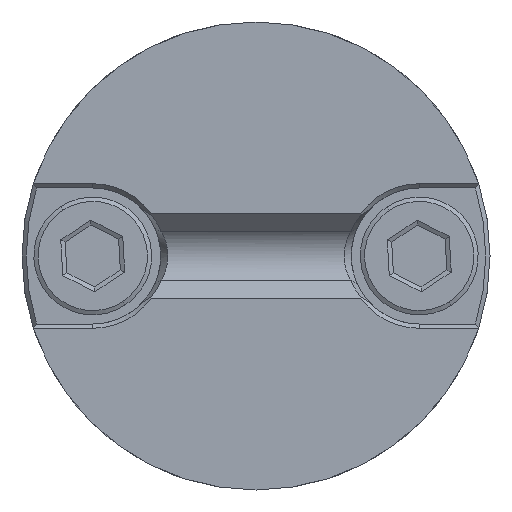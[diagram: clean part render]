
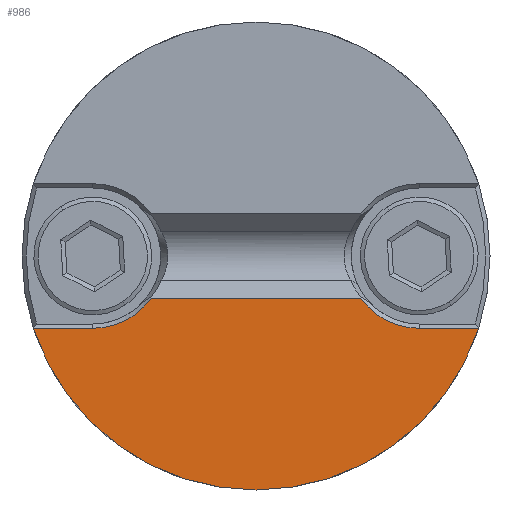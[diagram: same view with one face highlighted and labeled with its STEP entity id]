
A CAD part, front view. The second image highlights one B-rep face of the part: STEP entity #986.
In plain terms, the highlighted planar face has unit normal (0, -1, 0).
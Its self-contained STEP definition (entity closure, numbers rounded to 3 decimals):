
#5 = ORIENTED_EDGE ( 'NONE', *, *, #1172, .F. ) ;
#6 = ORIENTED_EDGE ( 'NONE', *, *, #1133, .F. ) ;
#9 = ORIENTED_EDGE ( 'NONE', *, *, #1061, .T. ) ;
#10 = ORIENTED_EDGE ( 'NONE', *, *, #1145, .T. ) ;
#14 = ORIENTED_EDGE ( 'NONE', *, *, #1176, .F. ) ;
#16 = ORIENTED_EDGE ( 'NONE', *, *, #1022, .T. ) ;
#18 = ORIENTED_EDGE ( 'NONE', *, *, #1146, .T. ) ;
#134 = LINE ( 'NONE', #2205, #1882 ) ;
#139 = EDGE_LOOP ( 'NONE', ( #18, #10, #14, #9, #16, #5, #6 ) ) ;
#330 = FACE_OUTER_BOUND ( 'NONE', #139, .T. ) ;
#526 = LINE ( 'NONE', #1703, #543 ) ;
#529 = CIRCLE ( 'NONE', #818, 10.922 ) ;
#543 = VECTOR ( 'NONE', #1669, 1000. ) ;
#736 = AXIS2_PLACEMENT_3D ( 'NONE', #2270, #2271, #2207 ) ;
#745 = AXIS2_PLACEMENT_3D ( 'NONE', #1727, #1655, #1676 ) ;
#791 = AXIS2_PLACEMENT_3D ( 'NONE', #2257, #2335, #2341 ) ;
#818 = AXIS2_PLACEMENT_3D ( 'NONE', #1684, #1663, #1670 ) ;
#871 = AXIS2_PLACEMENT_3D ( 'NONE', #2079, #2073, #2072 ) ;
#986 = ADVANCED_FACE ( 'NONE', ( #330 ), #2167, .F. ) ;
#1022 = EDGE_CURVE ( 'NONE', #1489, #1510, #134, .T. ) ;
#1061 = EDGE_CURVE ( 'NONE', #1519, #1489, #1839, .T. ) ;
#1133 = EDGE_CURVE ( 'NONE', #1506, #1513, #1469, .T. ) ;
#1145 = EDGE_CURVE ( 'NONE', #1514, #1487, #1427, .T. ) ;
#1146 = EDGE_CURVE ( 'NONE', #1506, #1514, #1471, .T. ) ;
#1172 = EDGE_CURVE ( 'NONE', #1513, #1510, #529, .T. ) ;
#1176 = EDGE_CURVE ( 'NONE', #1519, #1487, #526, .T. ) ;
#1308 = CARTESIAN_POINT ( 'NONE',  ( -7.62, 0., -3.373 ) ) ;
#1315 = CARTESIAN_POINT ( 'NONE',  ( 4.888, 0., -1.978 ) ) ;
#1325 = CARTESIAN_POINT ( 'NONE',  ( 0., 0., -10.922 ) ) ;
#1326 = CARTESIAN_POINT ( 'NONE',  ( 7.62, 0., -3.373 ) ) ;
#1336 = CARTESIAN_POINT ( 'NONE',  ( -4.888, 0., -1.978 ) ) ;
#1345 = CARTESIAN_POINT ( 'NONE',  ( -10.388, 0., -3.373 ) ) ;
#1358 = CARTESIAN_POINT ( 'NONE',  ( 10.388, 0., -3.373 ) ) ;
#1427 = CIRCLE ( 'NONE', #745, 3.373 ) ;
#1469 = CIRCLE ( 'NONE', #871, 10.922 ) ;
#1471 = LINE ( 'NONE', #1735, #1474 ) ;
#1474 = VECTOR ( 'NONE', #1730, 1000. ) ;
#1487 = VERTEX_POINT ( 'NONE', #1315 ) ;
#1489 = VERTEX_POINT ( 'NONE', #1308 ) ;
#1506 = VERTEX_POINT ( 'NONE', #1358 ) ;
#1510 = VERTEX_POINT ( 'NONE', #1345 ) ;
#1513 = VERTEX_POINT ( 'NONE', #1325 ) ;
#1514 = VERTEX_POINT ( 'NONE', #1326 ) ;
#1519 = VERTEX_POINT ( 'NONE', #1336 ) ;
#1655 = DIRECTION ( 'NONE',  ( 0., 1., 0. ) ) ;
#1663 = DIRECTION ( 'NONE',  ( 0., 1., 0. ) ) ;
#1669 = DIRECTION ( 'NONE',  ( 1., 0., 0. ) ) ;
#1670 = DIRECTION ( 'NONE',  ( 0., 0., 1. ) ) ;
#1676 = DIRECTION ( 'NONE',  ( 0., 0., 1. ) ) ;
#1684 = CARTESIAN_POINT ( 'NONE',  ( 0., 0., 0. ) ) ;
#1703 = CARTESIAN_POINT ( 'NONE',  ( -6.35, 0., -1.978 ) ) ;
#1727 = CARTESIAN_POINT ( 'NONE',  ( 7.62, 0., 0. ) ) ;
#1730 = DIRECTION ( 'NONE',  ( -1., 0., 0. ) ) ;
#1735 = CARTESIAN_POINT ( 'NONE',  ( 0., 0., -3.373 ) ) ;
#1839 = CIRCLE ( 'NONE', #736, 3.373 ) ;
#1882 = VECTOR ( 'NONE', #2173, 1000. ) ;
#2072 = DIRECTION ( 'NONE',  ( 0., 0., 1. ) ) ;
#2073 = DIRECTION ( 'NONE',  ( 0., 1., 0. ) ) ;
#2079 = CARTESIAN_POINT ( 'NONE',  ( 0., 0., 0. ) ) ;
#2167 = PLANE ( 'NONE',  #791 ) ;
#2173 = DIRECTION ( 'NONE',  ( -1., 0., 0. ) ) ;
#2205 = CARTESIAN_POINT ( 'NONE',  ( 0., 0., -3.373 ) ) ;
#2207 = DIRECTION ( 'NONE',  ( 0., 0., 1. ) ) ;
#2257 = CARTESIAN_POINT ( 'NONE',  ( 0., 0., 0. ) ) ;
#2270 = CARTESIAN_POINT ( 'NONE',  ( -7.62, 0., 0. ) ) ;
#2271 = DIRECTION ( 'NONE',  ( 0., 1., 0. ) ) ;
#2335 = DIRECTION ( 'NONE',  ( 0., 1., 0. ) ) ;
#2341 = DIRECTION ( 'NONE',  ( 0., 0., 1. ) ) ;
